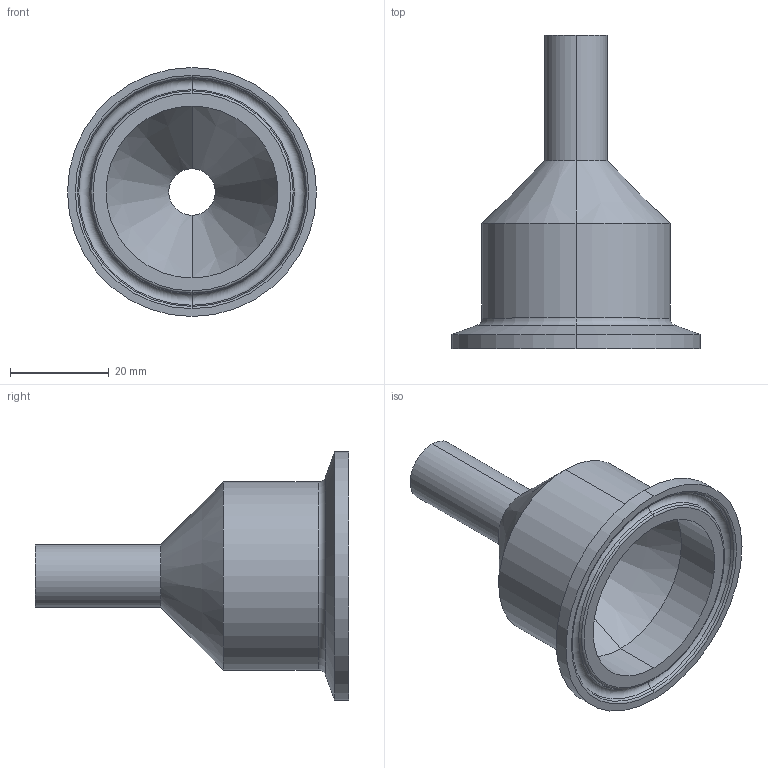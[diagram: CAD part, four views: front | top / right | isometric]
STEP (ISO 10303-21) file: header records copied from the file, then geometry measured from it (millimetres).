
FILE_DESCRIPTION (( 'STEP AP214' ), '1' );
FILE_NAME ('TE31SCW6L1.5X.5.STEP', '2025-09-23T18:06:17', ( '' ), ( '' ), 'SwSTEP 2.0', 'SolidWorks 2023', '' );
FILE_SCHEMA (( 'AUTOMOTIVE_DESIGN' ));
Length unit declared in the file: inch
Products named in the file (1): TE31SCW6L1.5X.5
Bounding box: 50.39 x 63.5 x 50.39 mm (x, y, z)
Volume: 20010.3 mm3; surface area: 11397 mm2
Topology: 1 solids, 1 shells, 31 faces, 62 edges, 34 vertices
Faces by surface type: cylinder 10, cone 10, torus 8, plane 3
Entity records: 833 total; most frequent: DIRECTION 168, CARTESIAN_POINT 128, ORIENTED_EDGE 124, AXIS2_PLACEMENT_3D 74, EDGE_CURVE 62, CIRCLE 42, VERTEX_POINT 34, EDGE_LOOP 34
